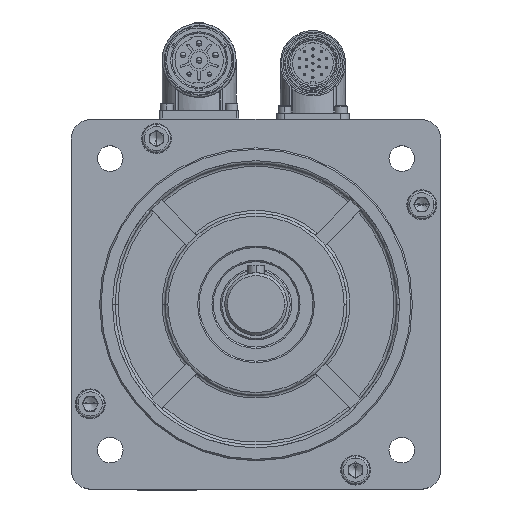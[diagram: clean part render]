
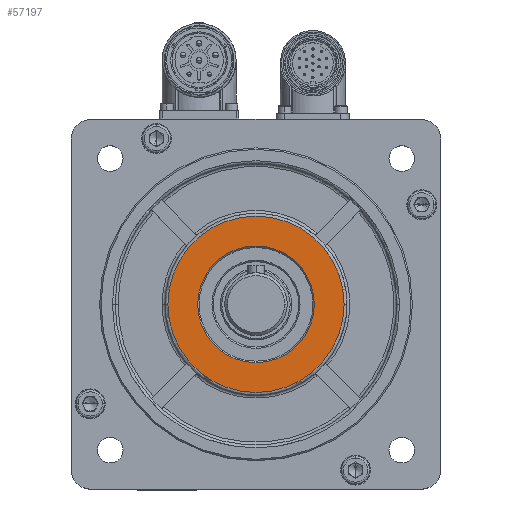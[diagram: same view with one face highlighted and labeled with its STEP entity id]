
A CAD part, top view. The second image highlights one B-rep face of the part: STEP entity #57197.
In plain terms, the highlighted planar face has unit normal (0, 0, 1).
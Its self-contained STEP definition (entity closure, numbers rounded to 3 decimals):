
#1157 = FACE_BOUND ( 'NONE', #6571, .T. ) ;
#1290 = VERTEX_POINT ( 'NONE', #45944 ) ;
#2173 = AXIS2_PLACEMENT_3D ( 'NONE', #62886, #57763, #28390 ) ;
#5271 = AXIS2_PLACEMENT_3D ( 'NONE', #28358, #52700, #62435 ) ;
#6571 = EDGE_LOOP ( 'NONE', ( #36439, #55624 ) ) ;
#8817 = EDGE_CURVE ( 'NONE', #1290, #38629, #29724, .T. ) ;
#9258 = AXIS2_PLACEMENT_3D ( 'NONE', #48133, #23359, #23771 ) ;
#10254 = CARTESIAN_POINT ( 'NONE',  ( 31., 0., 30.5 ) ) ;
#14180 = AXIS2_PLACEMENT_3D ( 'NONE', #17859, #27612, #61461 ) ;
#17859 = CARTESIAN_POINT ( 'NONE',  ( 0., 0., 30.5 ) ) ;
#23359 = DIRECTION ( 'NONE',  ( 0., 0., -1. ) ) ;
#23771 = DIRECTION ( 'NONE',  ( -1., 0., 0. ) ) ;
#26818 = VERTEX_POINT ( 'NONE', #10254 ) ;
#27612 = DIRECTION ( 'NONE',  ( 0., 0., 1. ) ) ;
#28229 = EDGE_CURVE ( 'NONE', #53709, #26818, #56266, .T. ) ;
#28358 = CARTESIAN_POINT ( 'NONE',  ( -58.113, -58.113, 30.5 ) ) ;
#28390 = DIRECTION ( 'NONE',  ( -1., 0., 0. ) ) ;
#28567 = CARTESIAN_POINT ( 'NONE',  ( -31., 0., 30.5 ) ) ;
#28764 = ORIENTED_EDGE ( 'NONE', *, *, #46148, .T. ) ;
#29724 = CIRCLE ( 'NONE', #9258, 20.5 ) ;
#36439 = ORIENTED_EDGE ( 'NONE', *, *, #60022, .T. ) ;
#36672 = DIRECTION ( 'NONE',  ( 0., 0., 1. ) ) ;
#37049 = ORIENTED_EDGE ( 'NONE', *, *, #28229, .T. ) ;
#37505 = PLANE ( 'NONE',  #5271 ) ;
#38342 = FACE_OUTER_BOUND ( 'NONE', #59045, .T. ) ;
#38629 = VERTEX_POINT ( 'NONE', #39121 ) ;
#39121 = CARTESIAN_POINT ( 'NONE',  ( 20.5, 0., 30.5 ) ) ;
#40237 = AXIS2_PLACEMENT_3D ( 'NONE', #47071, #36672, #46432 ) ;
#45944 = CARTESIAN_POINT ( 'NONE',  ( -20.5, 0., 30.5 ) ) ;
#46148 = EDGE_CURVE ( 'NONE', #26818, #53709, #56071, .T. ) ;
#46432 = DIRECTION ( 'NONE',  ( -1., 0., 0. ) ) ;
#47071 = CARTESIAN_POINT ( 'NONE',  ( 0., 0., 30.5 ) ) ;
#48133 = CARTESIAN_POINT ( 'NONE',  ( 0., 0., 30.5 ) ) ;
#52700 = DIRECTION ( 'NONE',  ( 0., 0., -1. ) ) ;
#53709 = VERTEX_POINT ( 'NONE', #28567 ) ;
#55624 = ORIENTED_EDGE ( 'NONE', *, *, #8817, .T. ) ;
#56071 = CIRCLE ( 'NONE', #14180, 31. ) ;
#56266 = CIRCLE ( 'NONE', #40237, 31. ) ;
#57197 = ADVANCED_FACE ( 'NONE', ( #38342, #1157 ), #37505, .F. ) ;
#57763 = DIRECTION ( 'NONE',  ( 0., 0., -1. ) ) ;
#59045 = EDGE_LOOP ( 'NONE', ( #37049, #28764 ) ) ;
#59278 = CIRCLE ( 'NONE', #2173, 20.5 ) ;
#60022 = EDGE_CURVE ( 'NONE', #38629, #1290, #59278, .T. ) ;
#61461 = DIRECTION ( 'NONE',  ( -1., 0., 0. ) ) ;
#62435 = DIRECTION ( 'NONE',  ( -1., 0., 0. ) ) ;
#62886 = CARTESIAN_POINT ( 'NONE',  ( 0., 0., 30.5 ) ) ;
